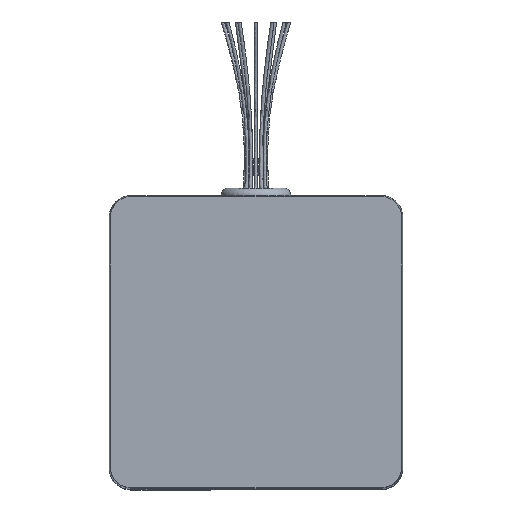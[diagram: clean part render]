
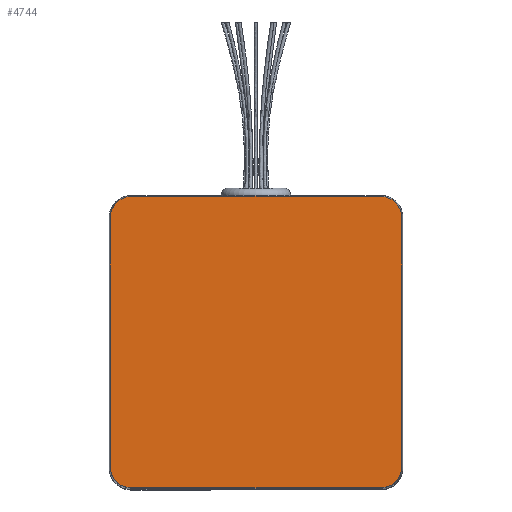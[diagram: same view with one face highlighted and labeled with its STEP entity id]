
A CAD part, top view. The second image highlights one B-rep face of the part: STEP entity #4744.
In plain terms, the highlighted planar face has unit normal (0, 0, 1).
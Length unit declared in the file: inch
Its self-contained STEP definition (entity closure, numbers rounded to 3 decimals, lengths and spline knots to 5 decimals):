
#4054=CARTESIAN_POINT('',(0.0,1.675,7.195));
#4055=VERTEX_POINT('',#4054);
#4099=CARTESIAN_POINT('',(-1.425,1.675,7.195));
#4100=VERTEX_POINT('',#4099);
#4107=CARTESIAN_POINT('',(-1.425,1.675,7.195));
#4108=DIRECTION('',(1.0,0.0,0.0));
#4109=VECTOR('',#4108,1.425);
#4110=LINE('',#4107,#4109);
#4111=EDGE_CURVE('',#4100,#4055,#4110,.T.);
#4122=CARTESIAN_POINT('',(1.425,1.675,7.195));
#4123=VERTEX_POINT('',#4122);
#4124=CARTESIAN_POINT('',(0.0,1.675,7.195));
#4125=DIRECTION('',(1.0,0.0,0.0));
#4126=VECTOR('',#4125,1.425);
#4127=LINE('',#4124,#4126);
#4128=EDGE_CURVE('',#4055,#4123,#4127,.T.);
#4267=CARTESIAN_POINT('',(1.675,1.425,7.195));
#4268=VERTEX_POINT('',#4267);
#4275=CARTESIAN_POINT('',(1.675,-1.425,7.195));
#4276=VERTEX_POINT('',#4275);
#4277=CARTESIAN_POINT('',(1.675,1.425,7.195));
#4278=DIRECTION('',(0.0,-1.0,0.0));
#4279=VECTOR('',#4278,2.85);
#4280=LINE('',#4277,#4279);
#4281=EDGE_CURVE('',#4268,#4276,#4280,.T.);
#4345=CARTESIAN_POINT('',(1.425,1.425,7.195));
#4346=DIRECTION('',(0.0,0.0,-1.));
#4347=DIRECTION('',(0.707,0.707,0.0));
#4348=AXIS2_PLACEMENT_3D('',#4345,#4346,#4347);
#4349=CIRCLE('',#4348,0.25);
#4350=EDGE_CURVE('',#4123,#4268,#4349,.T.);
#4434=CARTESIAN_POINT('',(-1.675,1.425,7.195));
#4435=VERTEX_POINT('',#4434);
#4442=CARTESIAN_POINT('',(-1.425,1.425,7.195));
#4443=DIRECTION('',(0.0,0.0,-1.));
#4444=DIRECTION('',(-0.707,0.707,0.0));
#4445=AXIS2_PLACEMENT_3D('',#4442,#4443,#4444);
#4446=CIRCLE('',#4445,0.25);
#4447=EDGE_CURVE('',#4435,#4100,#4446,.T.);
#4520=CARTESIAN_POINT('',(1.425,-1.675,7.195));
#4521=VERTEX_POINT('',#4520);
#4528=CARTESIAN_POINT('',(-1.425,-1.675,7.195));
#4529=VERTEX_POINT('',#4528);
#4530=CARTESIAN_POINT('',(1.425,-1.675,7.195));
#4531=DIRECTION('',(-1.0,0.0,0.0));
#4532=VECTOR('',#4531,2.85);
#4533=LINE('',#4530,#4532);
#4534=EDGE_CURVE('',#4521,#4529,#4533,.T.);
#4552=CARTESIAN_POINT('',(1.425,-1.425,7.195));
#4553=DIRECTION('',(0.0,0.0,-1.));
#4554=DIRECTION('',(0.707,-0.707,0.0));
#4555=AXIS2_PLACEMENT_3D('',#4552,#4553,#4554);
#4556=CIRCLE('',#4555,0.25);
#4557=EDGE_CURVE('',#4276,#4521,#4556,.T.);
#4704=CARTESIAN_POINT('',(-1.675,-1.425,7.195));
#4705=VERTEX_POINT('',#4704);
#4712=CARTESIAN_POINT('',(-1.675,-1.425,7.195));
#4713=DIRECTION('',(0.0,1.0,0.0));
#4714=VECTOR('',#4713,2.85);
#4715=LINE('',#4712,#4714);
#4716=EDGE_CURVE('',#4705,#4435,#4715,.T.);
#4722=CARTESIAN_POINT('',(0.,0.,7.195));
#4723=DIRECTION('',(0.0,0.0,1.0));
#4724=DIRECTION('',(1.0,0.0,0.0));
#4725=AXIS2_PLACEMENT_3D('',#4722,#4723,#4724);
#4726=PLANE('',#4725);
#4727=CARTESIAN_POINT('',(-1.425,-1.425,7.195));
#4728=DIRECTION('',(0.0,0.0,-1.));
#4729=DIRECTION('',(-0.707,-0.707,0.0));
#4730=AXIS2_PLACEMENT_3D('',#4727,#4728,#4729);
#4731=CIRCLE('',#4730,0.25);
#4732=EDGE_CURVE('',#4529,#4705,#4731,.T.);
#4733=ORIENTED_EDGE('',*,*,#4732,.F.);
#4734=ORIENTED_EDGE('',*,*,#4534,.F.);
#4735=ORIENTED_EDGE('',*,*,#4557,.F.);
#4736=ORIENTED_EDGE('',*,*,#4281,.F.);
#4737=ORIENTED_EDGE('',*,*,#4350,.F.);
#4738=ORIENTED_EDGE('',*,*,#4128,.F.);
#4739=ORIENTED_EDGE('',*,*,#4111,.F.);
#4740=ORIENTED_EDGE('',*,*,#4447,.F.);
#4741=ORIENTED_EDGE('',*,*,#4716,.F.);
#4742=EDGE_LOOP('',(#4733,#4734,#4735,#4736,#4737,#4738,#4739,#4740,#4741));
#4743=FACE_OUTER_BOUND('',#4742,.T.);
#4744=ADVANCED_FACE('',(#4743),#4726,.T.);
